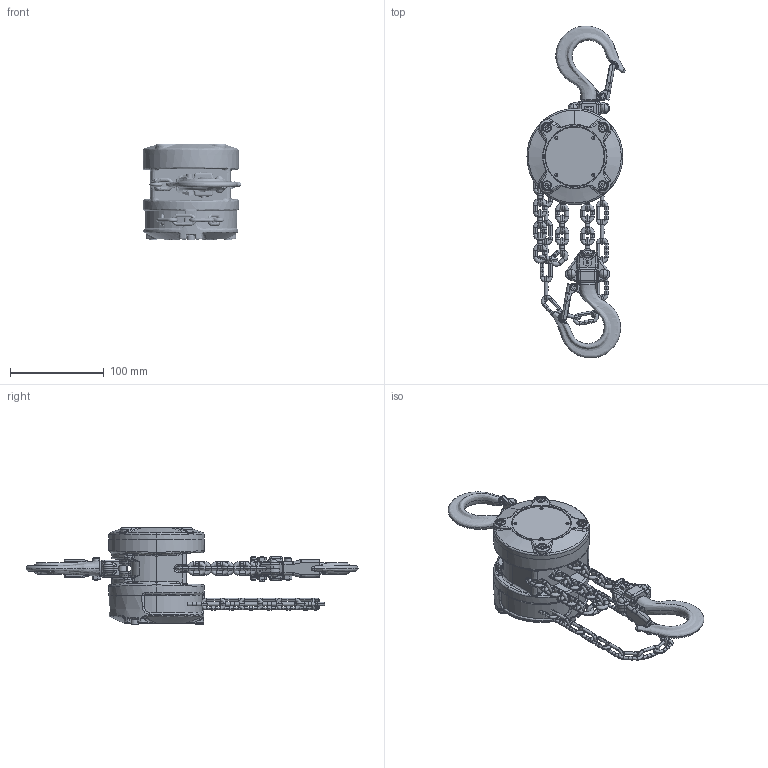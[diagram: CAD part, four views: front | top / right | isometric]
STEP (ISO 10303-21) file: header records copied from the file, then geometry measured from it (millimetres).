
FILE_DESCRIPTION (( 'STEP AP214' ), '1' );
FILE_NAME ('CX005.STEP', '2026-08-13T12:32:18', ( '' ), ( '' ), 'SwSTEP 2.0', 'SolidWorks 2026', '' );
FILE_SCHEMA (( 'AUTOMOTIVE_DESIGN' ));
Length unit declared in the file: inch
Products named in the file (23): _V_^_J_i_O.STEP; _z_C___J_o_[.STEP; ___x_b_g.STEP; _N_T___s__.STEP; ___[_h_`_F__.STEP; _s__.STEP; _c_i_M_W_N.STEP; _~_]_i_b_g.STEP; _{___g.STEP; Hexagon Socket Head Cap Screw_JIS-M5_JIS B 1176 M5 x 35 (35) --N.STEP; _M___P_[_X.STEP; ___x_b_g_J1Rx11-xxxxxx______x_b_g 5x22.STEP; CX005.STEP; _A___[_____o_[.STEP; _`_F_[___g___s__.STEP; _l_[___v___[_g.STEP; _{_f_B.STEP; CX005; Hexagon Socket Head Cap Screw_JIS-M5_JIS B 1176 M5 x 16 (16) --N.STEP; _E_G_J_i_O.STEP; _n___h_`_F__.STEP; _p_[_J_[___x_b_g.STEP; _t_b_N.STEP
Assembly tree (77 placements, depth 3):
  CX005
    CX005.STEP
      _{_f_B.STEP
      _M___P_[_X.STEP
      _p_[_J_[___x_b_g.STEP  x4
      _z_C___J_o_[.STEP
      ___[_h_`_F__.STEP  x25
      _`_F_[___g___s__.STEP
      _n___h_`_F__.STEP  x16
      _t_b_N.STEP  x2
      _A___[_____o_[.STEP  x2
      _s__.STEP  x2
      _{___g.STEP  x2
      _E_G_J_i_O.STEP  x2
      ___x_b_g.STEP  x2
      _c_i_M_W_N.STEP
      _V_^_J_i_O.STEP  x2
      ___x_b_g_J1Rx11-xxxxxx______x_b_g 5x22.STEP  x2
      Hexagon Socket Head Cap Screw_JIS-M5_JIS B 1176 M5 x 16 (16) --N.STEP  x4
      Hexagon Socket Head Cap Screw_JIS-M5_JIS B 1176 M5 x 35 (35) --N.STEP  x3
      _l_[___v___[_g.STEP
      _N_T___s__.STEP
      _~_]_i_b_g.STEP
Bounding box: 104.48 x 353.86 x 102.85 mm (x, y, z)
Volume: 803815.4 mm3; surface area: 164393.9 mm2
Topology: 82 solids, 86 shells, 2845 faces, 6958 edges, 4235 vertices
Faces by surface type: bspline 1571, plane 635, cylinder 537, cone 96, torus 6
Entity records: 125886 total; most frequent: CARTESIAN_POINT 96026, ORIENTED_EDGE 7390, EDGE_CURVE 3695, DIRECTION 3314, VERTEX_POINT 2276, EDGE_LOOP 1629, FACE_OUTER_BOUND 1526, ADVANCED_FACE 1526
